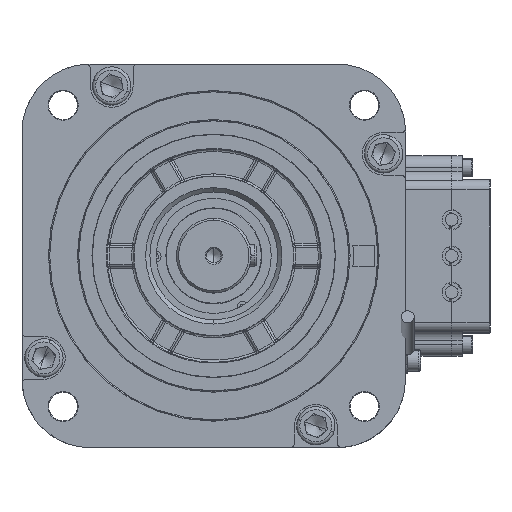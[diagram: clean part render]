
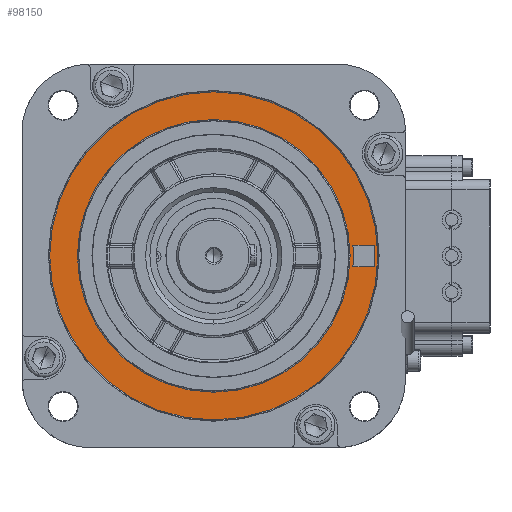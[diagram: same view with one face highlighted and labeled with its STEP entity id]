
A CAD part, top view. The second image highlights one B-rep face of the part: STEP entity #98150.
In plain terms, the highlighted planar face has unit normal (0, 0, 1).
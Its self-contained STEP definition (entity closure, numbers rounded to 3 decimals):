
#2967 = ORIENTED_EDGE ( 'NONE', *, *, #46665, .T. ) ;
#6501 = CARTESIAN_POINT ( 'NONE',  ( 77.5, 0., 109. ) ) ;
#7782 = EDGE_LOOP ( 'NONE', ( #103174, #175089, #50747, #55015 ) ) ;
#9894 = DIRECTION ( 'NONE',  ( 0., 0., -1. ) ) ;
#11496 = AXIS2_PLACEMENT_3D ( 'NONE', #72743, #42694, #159159 ) ;
#12896 = VERTEX_POINT ( 'NONE', #148578 ) ;
#19139 = DIRECTION ( 'NONE',  ( 0., -1., 0. ) ) ;
#24772 = AXIS2_PLACEMENT_3D ( 'NONE', #88662, #145979, #19139 ) ;
#26415 = EDGE_CURVE ( 'NONE', #88098, #143931, #67215, .T. ) ;
#29913 = DIRECTION ( 'NONE',  ( 0., 1., 0. ) ) ;
#33476 = CARTESIAN_POINT ( 'NONE',  ( 0., 0., 109. ) ) ;
#33880 = CIRCLE ( 'NONE', #24772, 75.5 ) ;
#34391 = AXIS2_PLACEMENT_3D ( 'NONE', #140419, #9894, #52138 ) ;
#35729 = AXIS2_PLACEMENT_3D ( 'NONE', #6501, #77904, #91979 ) ;
#38717 = CIRCLE ( 'NONE', #152737, 64. ) ;
#40933 = DIRECTION ( 'NONE',  ( 1., 0., 0. ) ) ;
#42694 = DIRECTION ( 'NONE',  ( 0., 0., 1. ) ) ;
#43991 = CIRCLE ( 'NONE', #73653, 77. ) ;
#44571 = ORIENTED_EDGE ( 'NONE', *, *, #119013, .T. ) ;
#44756 = DIRECTION ( 'NONE',  ( 0., -1., 0. ) ) ;
#45347 = CARTESIAN_POINT ( 'NONE',  ( 75.334, -5., 109. ) ) ;
#46665 = EDGE_CURVE ( 'NONE', #122077, #160735, #43991, .T. ) ;
#46763 = DIRECTION ( 'NONE',  ( 0., 0., -1. ) ) ;
#50747 = ORIENTED_EDGE ( 'NONE', *, *, #156070, .F. ) ;
#52138 = DIRECTION ( 'NONE',  ( 0., 1., 0. ) ) ;
#54029 = CARTESIAN_POINT ( 'NONE',  ( 75.334, 5., 109. ) ) ;
#55015 = ORIENTED_EDGE ( 'NONE', *, *, #73695, .F. ) ;
#59123 = ORIENTED_EDGE ( 'NONE', *, *, #145964, .T. ) ;
#61013 = PLANE ( 'NONE',  #35729 ) ;
#64447 = CIRCLE ( 'NONE', #34391, 64. ) ;
#67215 = LINE ( 'NONE', #54029, #172871 ) ;
#72743 = CARTESIAN_POINT ( 'NONE',  ( 0., 0., 109. ) ) ;
#73653 = AXIS2_PLACEMENT_3D ( 'NONE', #33476, #90801, #148122 ) ;
#73695 = EDGE_CURVE ( 'NONE', #12896, #123306, #169655, .T. ) ;
#76368 = EDGE_LOOP ( 'NONE', ( #59123, #2967 ) ) ;
#77904 = DIRECTION ( 'NONE',  ( 0., 0., -1. ) ) ;
#84350 = EDGE_LOOP ( 'NONE', ( #120923, #44571 ) ) ;
#86125 = CARTESIAN_POINT ( 'NONE',  ( 0., -64., 109. ) ) ;
#88098 = VERTEX_POINT ( 'NONE', #171355 ) ;
#88662 = CARTESIAN_POINT ( 'NONE',  ( 0., 0., 109. ) ) ;
#90801 = DIRECTION ( 'NONE',  ( 0., 0., 1. ) ) ;
#91979 = DIRECTION ( 'NONE',  ( 0., 1., 0. ) ) ;
#96080 = CARTESIAN_POINT ( 'NONE',  ( 0., 77., 109. ) ) ;
#98084 = CIRCLE ( 'NONE', #11496, 77. ) ;
#98150 = ADVANCED_FACE ( 'NONE', ( #132388, #149305, #147431 ), #61013, .F. ) ;
#99506 = CARTESIAN_POINT ( 'NONE',  ( 65.309, 5., 109. ) ) ;
#103174 = ORIENTED_EDGE ( 'NONE', *, *, #184807, .F. ) ;
#111346 = DIRECTION ( 'NONE',  ( -1., 0., 0. ) ) ;
#112364 = CARTESIAN_POINT ( 'NONE',  ( 75.334, -5., 109. ) ) ;
#115267 = DIRECTION ( 'NONE',  ( 0., 0., -1. ) ) ;
#116187 = CARTESIAN_POINT ( 'NONE',  ( 0., 0., 109. ) ) ;
#119013 = EDGE_CURVE ( 'NONE', #169953, #138613, #38717, .T. ) ;
#120923 = ORIENTED_EDGE ( 'NONE', *, *, #160397, .T. ) ;
#122077 = VERTEX_POINT ( 'NONE', #122407 ) ;
#122407 = CARTESIAN_POINT ( 'NONE',  ( 0., -77., 109. ) ) ;
#123306 = VERTEX_POINT ( 'NONE', #45347 ) ;
#132388 = FACE_BOUND ( 'NONE', #84350, .T. ) ;
#138613 = VERTEX_POINT ( 'NONE', #158212 ) ;
#140419 = CARTESIAN_POINT ( 'NONE',  ( 0., 0., 109. ) ) ;
#143931 = VERTEX_POINT ( 'NONE', #99506 ) ;
#145964 = EDGE_CURVE ( 'NONE', #160735, #122077, #98084, .T. ) ;
#145979 = DIRECTION ( 'NONE',  ( 0., 0., 1. ) ) ;
#147300 = CARTESIAN_POINT ( 'NONE',  ( 0., 0., 109. ) ) ;
#147431 = FACE_BOUND ( 'NONE', #7782, .T. ) ;
#148122 = DIRECTION ( 'NONE',  ( 0., 1., 0. ) ) ;
#148578 = CARTESIAN_POINT ( 'NONE',  ( 65.309, -5., 109. ) ) ;
#149305 = FACE_OUTER_BOUND ( 'NONE', #76368, .T. ) ;
#149521 = AXIS2_PLACEMENT_3D ( 'NONE', #116187, #115267, #44756 ) ;
#152737 = AXIS2_PLACEMENT_3D ( 'NONE', #147300, #46763, #29913 ) ;
#156070 = EDGE_CURVE ( 'NONE', #123306, #88098, #33880, .T. ) ;
#158212 = CARTESIAN_POINT ( 'NONE',  ( 0., 64., 109. ) ) ;
#159159 = DIRECTION ( 'NONE',  ( 0., 1., 0. ) ) ;
#160397 = EDGE_CURVE ( 'NONE', #138613, #169953, #64447, .T. ) ;
#160735 = VERTEX_POINT ( 'NONE', #96080 ) ;
#169655 = LINE ( 'NONE', #112364, #180764 ) ;
#169953 = VERTEX_POINT ( 'NONE', #86125 ) ;
#171355 = CARTESIAN_POINT ( 'NONE',  ( 75.334, 5., 109. ) ) ;
#172871 = VECTOR ( 'NONE', #111346, 1000. ) ;
#175089 = ORIENTED_EDGE ( 'NONE', *, *, #26415, .F. ) ;
#180764 = VECTOR ( 'NONE', #40933, 1000. ) ;
#182489 = CIRCLE ( 'NONE', #149521, 65.5 ) ;
#184807 = EDGE_CURVE ( 'NONE', #143931, #12896, #182489, .T. ) ;
